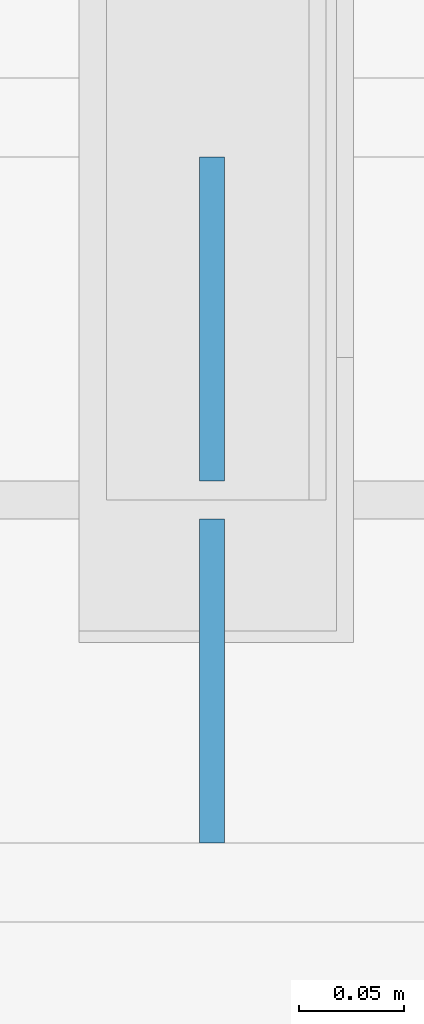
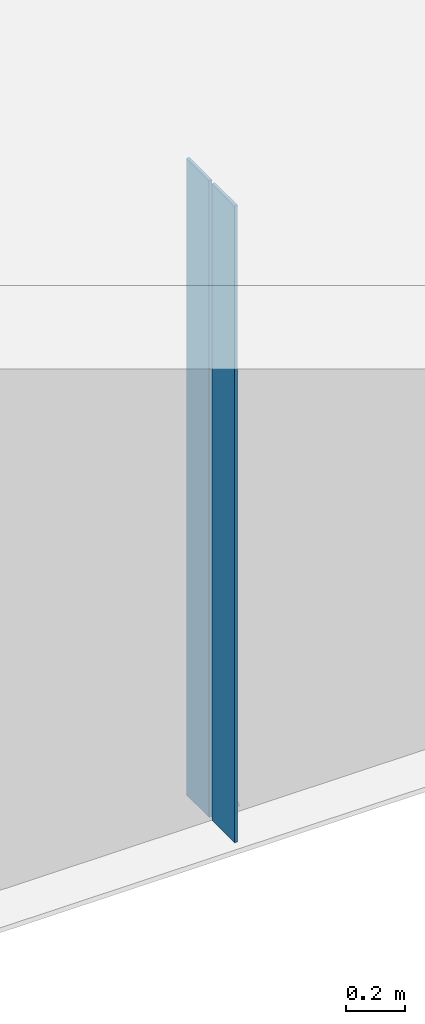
# One storey, part 7 of 20: 2 plates.
"""IFC4 building model written with IfcOpenShell, lengths in metres."""

from ifc_helpers import new_model, si_unit, frame, origin, origin_with_axes, origin_2d_with_axis, place, context, subcontext, project, spatial, rectangle, extrude, element, save


model = new_model("IFC4")

# Units and contexts
model_context = context("Model", 3, precision=1e-05, world=origin())
body_context = subcontext(model_context, "Body", "Model", "MODEL_VIEW")
ifc_project = project(units=[si_unit("LENGTHUNIT", "METRE"), si_unit("AREAUNIT", "SQUARE_METRE"), si_unit("VOLUMEUNIT", "CUBIC_METRE"), si_unit("PLANEANGLEUNIT", "RADIAN")], contexts=[model_context])

# Site, building, storey
site_placement = place(None, origin_with_axes())
site = spatial("IfcSite", under=ifc_project, at=site_placement, Name="Default Site")
building_placement = place(site_placement, origin_with_axes())
building = spatial("IfcBuilding", under=site, at=building_placement, Name="Bridge Structure")
storey_placement = place(building_placement, origin_with_axes())
storey = spatial("IfcBuildingStorey", under=building, at=storey_placement, Name="Superstructure")

# Plates
for number, where, z_axis, x_axis, name in (
    (1, (22.498, -5.41425, -1.307), (0.0, 0.0, 1.0), (1.0, 0.0, 0.0), "Intermediate Stiffener 1"),
    (2, (22.498, -5.58575, -1.307), (0.0, 0.0, 1.0), (1.0, 0.0, 0.0), "Intermediate Stiffener 1"),
):
    element("IfcPlate", number, at=place(storey_placement, frame(where, z_axis=z_axis, x_axis=x_axis)), inside=storey, Name=name, context=body_context, shape_type="SweptSolid", body=[
        extrude(rectangle(XDim=0.012, YDim=0.1535, at=origin_2d_with_axis()), origin_with_axes(), (0.0, 0.0, 1.0), 2.614),
    ])

save(model, "model.ifc")
